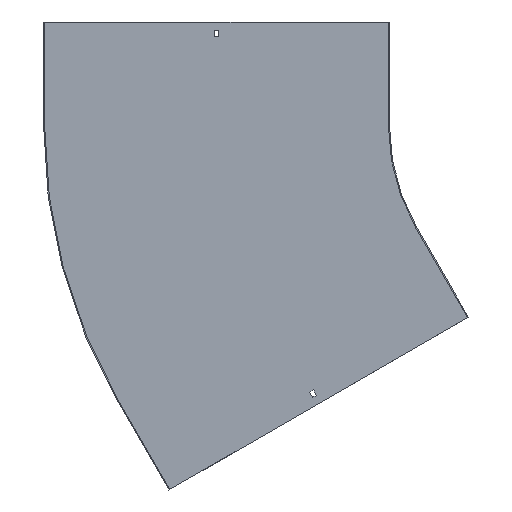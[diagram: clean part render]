
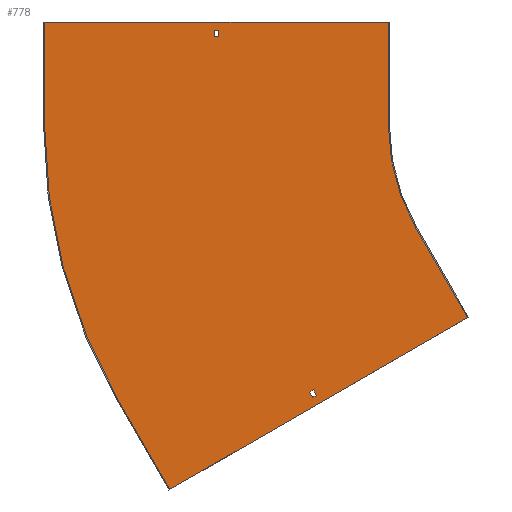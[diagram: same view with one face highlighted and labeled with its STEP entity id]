
A CAD part, front view. The second image highlights one B-rep face of the part: STEP entity #778.
In plain terms, the highlighted planar face has unit normal (0, -1, 0).
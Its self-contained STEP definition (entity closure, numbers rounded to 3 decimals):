
#2 = CARTESIAN_POINT ( 'NONE',  ( -546.75, -1.5, 138. ) ) ;
#3 = LINE ( 'NONE', #521, #284 ) ;
#5 = VERTEX_POINT ( 'NONE', #28 ) ;
#10 = VERTEX_POINT ( 'NONE', #745 ) ;
#16 = VERTEX_POINT ( 'NONE', #613 ) ;
#23 = VERTEX_POINT ( 'NONE', #739 ) ;
#24 = ORIENTED_EDGE ( 'NONE', *, *, #258, .F. ) ;
#27 = EDGE_CURVE ( 'NONE', #562, #420, #405, .T. ) ;
#28 = CARTESIAN_POINT ( 'NONE',  ( -553.25, -1.5, 138. ) ) ;
#36 = VERTEX_POINT ( 'NONE', #686 ) ;
#73 = FACE_BOUND ( 'NONE', #811, .T. ) ;
#80 = DIRECTION ( 'NONE',  ( -0.866, 0., -0.5 ) ) ;
#86 = CARTESIAN_POINT ( 'NONE',  ( -800., -1.5, 150. ) ) ;
#112 = ORIENTED_EDGE ( 'NONE', *, *, #195, .F. ) ;
#114 = LINE ( 'NONE', #173, #559 ) ;
#115 = CIRCLE ( 'NONE', #381, 800. ) ;
#127 = CARTESIAN_POINT ( 'NONE',  ( 0., -1.5, 0. ) ) ;
#132 = EDGE_CURVE ( 'NONE', #688, #206, #171, .T. ) ;
#143 = CARTESIAN_POINT ( 'NONE',  ( -800., -1.5, 0. ) ) ;
#144 = VERTEX_POINT ( 'NONE', #832 ) ;
#150 = LINE ( 'NONE', #156, #715 ) ;
#156 = CARTESIAN_POINT ( 'NONE',  ( -617.82, -1.5, -529.904 ) ) ;
#169 = CARTESIAN_POINT ( 'NONE',  ( -184.808, -1.5, -279.904 ) ) ;
#171 = LINE ( 'NONE', #676, #348 ) ;
#173 = CARTESIAN_POINT ( 'NONE',  ( -546.75, -1.5, 0. ) ) ;
#174 = EDGE_CURVE ( 'NONE', #588, #278, #426, .T. ) ;
#178 = LINE ( 'NONE', #436, #462 ) ;
#184 = CARTESIAN_POINT ( 'NONE',  ( -414.629, -1.5, -388.342 ) ) ;
#188 = LINE ( 'NONE', #636, #799 ) ;
#193 = DIRECTION ( 'NONE',  ( 0., -1., 0. ) ) ;
#195 = EDGE_CURVE ( 'NONE', #863, #471, #178, .T. ) ;
#196 = VECTOR ( 'NONE', #414, 1000. ) ;
#203 = CARTESIAN_POINT ( 'NONE',  ( 0., -1.5, 0. ) ) ;
#206 = VERTEX_POINT ( 'NONE', #184 ) ;
#208 = EDGE_CURVE ( 'NONE', #144, #562, #115, .T. ) ;
#221 = DIRECTION ( 'NONE',  ( -1., 0., 0. ) ) ;
#225 = DIRECTION ( 'NONE',  ( -0.5, 0., 0.866 ) ) ;
#231 = DIRECTION ( 'NONE',  ( 0., 0., 1. ) ) ;
#235 = EDGE_CURVE ( 'NONE', #240, #863, #247, .T. ) ;
#240 = VERTEX_POINT ( 'NONE', #379 ) ;
#247 = LINE ( 'NONE', #584, #679 ) ;
#255 = CARTESIAN_POINT ( 'NONE',  ( -800., -1.5, 0. ) ) ;
#258 = EDGE_CURVE ( 'NONE', #36, #16, #188, .T. ) ;
#262 = VECTOR ( 'NONE', #604, 1000. ) ;
#265 = CARTESIAN_POINT ( 'NONE',  ( 0., -1.5, 0. ) ) ;
#266 = FACE_BOUND ( 'NONE', #590, .T. ) ;
#270 = EDGE_CURVE ( 'NONE', #5, #804, #779, .T. ) ;
#274 = ORIENTED_EDGE ( 'NONE', *, *, #298, .F. ) ;
#278 = VERTEX_POINT ( 'NONE', #503 ) ;
#284 = VECTOR ( 'NONE', #512, 1000. ) ;
#292 = EDGE_CURVE ( 'NONE', #16, #240, #419, .T. ) ;
#298 = EDGE_CURVE ( 'NONE', #23, #10, #510, .T. ) ;
#301 = PLANE ( 'NONE',  #502 ) ;
#309 = VECTOR ( 'NONE', #768, 1000. ) ;
#313 = DIRECTION ( 'NONE',  ( 0., 0., -1. ) ) ;
#316 = EDGE_CURVE ( 'NONE', #420, #36, #599, .T. ) ;
#318 = DIRECTION ( 'NONE',  ( 0., 1., 0. ) ) ;
#330 = ORIENTED_EDGE ( 'NONE', *, *, #472, .T. ) ;
#332 = VECTOR ( 'NONE', #231, 1000. ) ;
#334 = VECTOR ( 'NONE', #221, 1000. ) ;
#339 = DIRECTION ( 'NONE',  ( 0.866, 0., 0.5 ) ) ;
#348 = VECTOR ( 'NONE', #430, 1000. ) ;
#361 = EDGE_CURVE ( 'NONE', #471, #144, #150, .T. ) ;
#364 = CARTESIAN_POINT ( 'NONE',  ( -617.82, -1.5, -529.904 ) ) ;
#373 = CARTESIAN_POINT ( 'NONE',  ( -408.999, -1.5, -385.092 ) ) ;
#376 = DIRECTION ( 'NONE',  ( 1., 0., 0. ) ) ;
#379 = CARTESIAN_POINT ( 'NONE',  ( -259.808, -1.5, -150. ) ) ;
#381 = AXIS2_PLACEMENT_3D ( 'NONE', #265, #318, #642 ) ;
#386 = ORIENTED_EDGE ( 'NONE', *, *, #398, .F. ) ;
#393 = ORIENTED_EDGE ( 'NONE', *, *, #316, .F. ) ;
#398 = EDGE_CURVE ( 'NONE', #10, #688, #747, .T. ) ;
#402 = LINE ( 'NONE', #433, #309 ) ;
#405 = LINE ( 'NONE', #143, #332 ) ;
#414 = DIRECTION ( 'NONE',  ( -0.5, 0., 0.866 ) ) ;
#419 = CIRCLE ( 'NONE', #526, 300. ) ;
#420 = VERTEX_POINT ( 'NONE', #86 ) ;
#426 = LINE ( 'NONE', #689, #334 ) ;
#430 = DIRECTION ( 'NONE',  ( -0.866, 0., -0.5 ) ) ;
#433 = CARTESIAN_POINT ( 'NONE',  ( -553.25, -1.5, 0. ) ) ;
#436 = CARTESIAN_POINT ( 'NONE',  ( -183.509, -1.5, -279.154 ) ) ;
#448 = ORIENTED_EDGE ( 'NONE', *, *, #685, .T. ) ;
#462 = VECTOR ( 'NONE', #80, 1000. ) ;
#467 = ORIENTED_EDGE ( 'NONE', *, *, #174, .T. ) ;
#468 = ORIENTED_EDGE ( 'NONE', *, *, #292, .F. ) ;
#471 = VERTEX_POINT ( 'NONE', #364 ) ;
#472 = EDGE_CURVE ( 'NONE', #278, #5, #402, .T. ) ;
#501 = DIRECTION ( 'NONE',  ( 0., 0., -1. ) ) ;
#502 = AXIS2_PLACEMENT_3D ( 'NONE', #203, #519, #794 ) ;
#503 = CARTESIAN_POINT ( 'NONE',  ( -553.25, -1.5, 129. ) ) ;
#510 = LINE ( 'NONE', #753, #696 ) ;
#512 = DIRECTION ( 'NONE',  ( 0.5, 0., -0.866 ) ) ;
#518 = DIRECTION ( 'NONE',  ( 0.5, 0., -0.866 ) ) ;
#519 = DIRECTION ( 'NONE',  ( 0., -1., 0. ) ) ;
#521 = CARTESIAN_POINT ( 'NONE',  ( -479.129, -1.5, -276.625 ) ) ;
#526 = AXIS2_PLACEMENT_3D ( 'NONE', #127, #193, #313 ) ;
#534 = EDGE_LOOP ( 'NONE', ( #393, #792, #675, #729, #112, #754, #468, #24 ) ) ;
#549 = CARTESIAN_POINT ( 'NONE',  ( -546.75, -1.5, 129. ) ) ;
#559 = VECTOR ( 'NONE', #501, 1000. ) ;
#561 = EDGE_CURVE ( 'NONE', #206, #23, #3, .T. ) ;
#562 = VERTEX_POINT ( 'NONE', #255 ) ;
#583 = VECTOR ( 'NONE', #376, 1000. ) ;
#584 = CARTESIAN_POINT ( 'NONE',  ( -259.808, -1.5, -150. ) ) ;
#585 = ORIENTED_EDGE ( 'NONE', *, *, #270, .T. ) ;
#588 = VERTEX_POINT ( 'NONE', #549 ) ;
#590 = EDGE_LOOP ( 'NONE', ( #386, #274, #601, #751 ) ) ;
#599 = LINE ( 'NONE', #683, #262 ) ;
#601 = ORIENTED_EDGE ( 'NONE', *, *, #561, .F. ) ;
#604 = DIRECTION ( 'NONE',  ( 1., 0., 0. ) ) ;
#610 = CARTESIAN_POINT ( 'NONE',  ( -473.499, -1.5, -273.375 ) ) ;
#613 = CARTESIAN_POINT ( 'NONE',  ( -300., -1.5, 0. ) ) ;
#636 = CARTESIAN_POINT ( 'NONE',  ( -300., -1.5, 150. ) ) ;
#642 = DIRECTION ( 'NONE',  ( 0., 0., -1. ) ) ;
#675 = ORIENTED_EDGE ( 'NONE', *, *, #208, .F. ) ;
#676 = CARTESIAN_POINT ( 'NONE',  ( 64.5, -1.5, -111.717 ) ) ;
#679 = VECTOR ( 'NONE', #518, 1000. ) ;
#683 = CARTESIAN_POINT ( 'NONE',  ( -801.5, -1.5, 150. ) ) ;
#685 = EDGE_CURVE ( 'NONE', #804, #588, #114, .T. ) ;
#686 = CARTESIAN_POINT ( 'NONE',  ( -300., -1.5, 150. ) ) ;
#688 = VERTEX_POINT ( 'NONE', #373 ) ;
#689 = CARTESIAN_POINT ( 'NONE',  ( 0., -1.5, 129. ) ) ;
#696 = VECTOR ( 'NONE', #339, 1000. ) ;
#705 = DIRECTION ( 'NONE',  ( 0., 0., -1. ) ) ;
#707 = CARTESIAN_POINT ( 'NONE',  ( 0., -1.5, 138. ) ) ;
#715 = VECTOR ( 'NONE', #225, 1000. ) ;
#729 = ORIENTED_EDGE ( 'NONE', *, *, #361, .F. ) ;
#739 = CARTESIAN_POINT ( 'NONE',  ( -410.129, -1.5, -396.137 ) ) ;
#745 = CARTESIAN_POINT ( 'NONE',  ( -404.499, -1.5, -392.887 ) ) ;
#747 = LINE ( 'NONE', #610, #196 ) ;
#751 = ORIENTED_EDGE ( 'NONE', *, *, #132, .F. ) ;
#753 = CARTESIAN_POINT ( 'NONE',  ( 69., -1.5, -119.512 ) ) ;
#754 = ORIENTED_EDGE ( 'NONE', *, *, #235, .F. ) ;
#768 = DIRECTION ( 'NONE',  ( 0., 0., 1. ) ) ;
#778 = ADVANCED_FACE ( 'NONE', ( #266, #857, #73 ), #301, .T. ) ;
#779 = LINE ( 'NONE', #707, #583 ) ;
#792 = ORIENTED_EDGE ( 'NONE', *, *, #27, .F. ) ;
#794 = DIRECTION ( 'NONE',  ( 0., 0., -1. ) ) ;
#799 = VECTOR ( 'NONE', #705, 1000. ) ;
#804 = VERTEX_POINT ( 'NONE', #2 ) ;
#811 = EDGE_LOOP ( 'NONE', ( #585, #448, #467, #330 ) ) ;
#832 = CARTESIAN_POINT ( 'NONE',  ( -692.82, -1.5, -400. ) ) ;
#857 = FACE_OUTER_BOUND ( 'NONE', #534, .T. ) ;
#863 = VERTEX_POINT ( 'NONE', #169 ) ;
